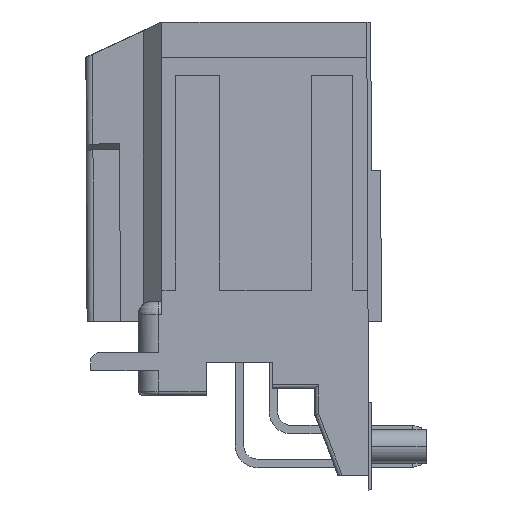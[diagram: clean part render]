
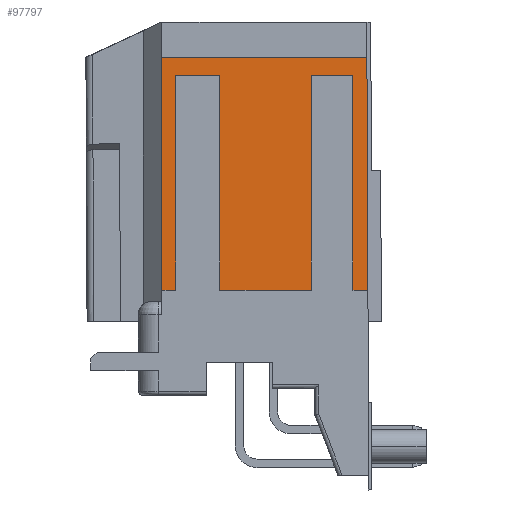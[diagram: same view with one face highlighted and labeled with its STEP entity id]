
A CAD part, left-side view. The second image highlights one B-rep face of the part: STEP entity #97797.
In plain terms, the highlighted planar face has unit normal (-1, 0, 0).
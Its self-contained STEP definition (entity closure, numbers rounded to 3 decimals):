
#29738=DIRECTION('',(0.,-1.,0.));
#29739=VECTOR('',#29738,15.408);
#29740=CARTESIAN_POINT('',(-96.335,48.46,-0.8));
#29741=LINE('',#29740,#29739);
#29750=DIRECTION('',(0.,0.,-1.));
#29751=VECTOR('',#29750,16.15);
#29752=CARTESIAN_POINT('',(-96.335,44.097,
-2.096));
#29753=LINE('',#29752,#29751);
#29754=DIRECTION('',(0.,0.,1.));
#29755=VECTOR('',#29754,16.15);
#29756=CARTESIAN_POINT('',(-96.335,47.43,
-18.245));
#29757=LINE('',#29756,#29755);
#29758=DIRECTION('',(0.,0.,-1.));
#29759=VECTOR('',#29758,17.445);
#29760=CARTESIAN_POINT('',(-96.335,48.46,-0.8));
#29761=LINE('',#29760,#29759);
#29762=DIRECTION('',(0.,0.004,1.));
#29763=VECTOR('',#29762,17.446);
#29764=CARTESIAN_POINT('',(-96.335,32.975,
-18.245));
#29765=LINE('',#29764,#29763);
#29766=DIRECTION('',(0.,0.,-1.));
#29767=VECTOR('',#29766,16.15);
#29768=CARTESIAN_POINT('',(-96.335,34.097,
-2.096));
#29769=LINE('',#29768,#29767);
#29770=DIRECTION('',(0.,0.,1.));
#29771=VECTOR('',#29770,16.15);
#29772=CARTESIAN_POINT('',(-96.335,37.233,
-18.245));
#29773=LINE('',#29772,#29771);
#29778=DIRECTION('',(0.,1.,0.));
#29779=VECTOR('',#29778,6.864);
#29780=CARTESIAN_POINT('',(-96.335,37.233,
-18.245));
#29781=LINE('',#29780,#29779);
#29794=DIRECTION('',(0.,1.,0.));
#29795=VECTOR('',#29794,3.333);
#29796=CARTESIAN_POINT('',(-96.335,44.097,
-2.096));
#29797=LINE('',#29796,#29795);
#29806=DIRECTION('',(0.,1.,0.));
#29807=VECTOR('',#29806,1.03);
#29808=CARTESIAN_POINT('',(-96.335,47.43,
-18.245));
#29809=LINE('',#29808,#29807);
#29822=DIRECTION('',(0.,1.,0.));
#29823=VECTOR('',#29822,3.136);
#29824=CARTESIAN_POINT('',(-96.335,34.097,
-2.096));
#29825=LINE('',#29824,#29823);
#29838=DIRECTION('',(0.,1.,0.));
#29839=VECTOR('',#29838,1.121);
#29840=CARTESIAN_POINT('',(-96.335,32.975,
-18.245));
#29841=LINE('',#29840,#29839);
#39415=CARTESIAN_POINT('',(-96.335,44.097,
-2.096));
#39416=CARTESIAN_POINT('',(-96.335,44.097,
-18.245));
#39417=VERTEX_POINT('',#39415);
#39418=VERTEX_POINT('',#39416);
#39419=CARTESIAN_POINT('',(-96.335,47.43,
-2.096));
#39420=VERTEX_POINT('',#39419);
#39421=CARTESIAN_POINT('',(-96.335,47.43,
-18.245));
#39422=VERTEX_POINT('',#39421);
#39423=CARTESIAN_POINT('',(-96.335,48.46,
-18.245));
#39424=VERTEX_POINT('',#39423);
#39425=CARTESIAN_POINT('',(-96.335,48.46,-0.8));
#39426=VERTEX_POINT('',#39425);
#39427=CARTESIAN_POINT('',(-96.335,33.051,-0.8));
#39428=VERTEX_POINT('',#39427);
#39429=CARTESIAN_POINT('',(-96.335,32.975,
-18.245));
#39430=VERTEX_POINT('',#39429);
#39431=CARTESIAN_POINT('',(-96.335,34.097,
-18.245));
#39432=VERTEX_POINT('',#39431);
#39433=CARTESIAN_POINT('',(-96.335,34.097,
-2.096));
#39434=VERTEX_POINT('',#39433);
#39435=CARTESIAN_POINT('',(-96.335,37.233,
-2.096));
#39436=VERTEX_POINT('',#39435);
#39437=CARTESIAN_POINT('',(-96.335,37.233,
-18.245));
#39438=VERTEX_POINT('',#39437);
#97769=CARTESIAN_POINT('',(-96.335,55.314,1.9));
#97770=DIRECTION('',(-1.,0.,0.));
#97771=DIRECTION('',(0.,1.,0.));
#97772=AXIS2_PLACEMENT_3D('',#97769,#97770,#97771);
#97773=PLANE('',#97772);
#97775=ORIENTED_EDGE('',*,*,#97774,.T.);
#97777=ORIENTED_EDGE('',*,*,#97776,.F.);
#97779=ORIENTED_EDGE('',*,*,#97778,.T.);
#97781=ORIENTED_EDGE('',*,*,#97780,.F.);
#97783=ORIENTED_EDGE('',*,*,#97782,.T.);
#97784=ORIENTED_EDGE('',*,*,#97720,.F.);
#97785=ORIENTED_EDGE('',*,*,#97761,.T.);
#97786=ORIENTED_EDGE('',*,*,#51020,.F.);
#97788=ORIENTED_EDGE('',*,*,#97787,.T.);
#97790=ORIENTED_EDGE('',*,*,#97789,.F.);
#97792=ORIENTED_EDGE('',*,*,#97791,.T.);
#97794=ORIENTED_EDGE('',*,*,#97793,.F.);
#97795=EDGE_LOOP('',(#97775,#97777,#97779,#97781,#97783,#97784,#97785,#97786,
#97788,#97790,#97792,#97794));
#97796=FACE_OUTER_BOUND('',#97795,.F.);
#97797=ADVANCED_FACE('',(#97796),#97773,.T.);
#51020=EDGE_CURVE('',#39430,#39428,#29765,.T.);
#97720=EDGE_CURVE('',#39426,#39424,#29761,.T.);
#97761=EDGE_CURVE('',#39426,#39428,#29741,.T.);
#97774=EDGE_CURVE('',#39438,#39418,#29781,.T.);
#97776=EDGE_CURVE('',#39417,#39418,#29753,.T.);
#97778=EDGE_CURVE('',#39417,#39420,#29797,.T.);
#97780=EDGE_CURVE('',#39422,#39420,#29757,.T.);
#97782=EDGE_CURVE('',#39422,#39424,#29809,.T.);
#97787=EDGE_CURVE('',#39430,#39432,#29841,.T.);
#97789=EDGE_CURVE('',#39434,#39432,#29769,.T.);
#97791=EDGE_CURVE('',#39434,#39436,#29825,.T.);
#97793=EDGE_CURVE('',#39438,#39436,#29773,.T.);
